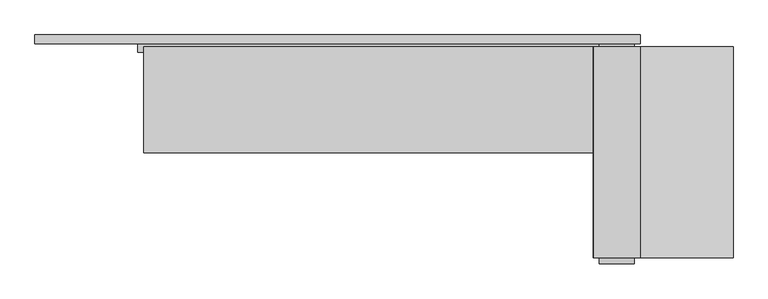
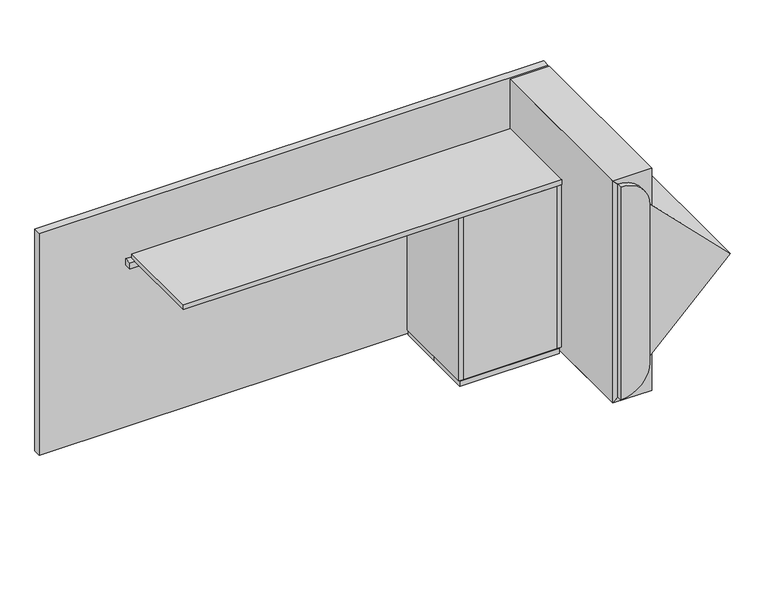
"""IFC4 building model written with IfcOpenShell, lengths in millimetres: proxy geometry, BASYS^OFFICE 1_WIRE WALL RT-RADIUS END LEG LEFT."""

from ifc_helpers import new_model, si_unit, point, frame, frame_2d, origin, origin_with_axes, place, context, project, spatial, polyline, circle_curve, trimmed, segment, composite_curve, outline, extrude, source, transform, mapped, element, save


def generic_models_84749f6c(model_context):
    return source(origin(), model_context, "Body", "SweptSolid", [
        extrude(outline(polyline([(1726.203125, 480.536875), (1524.203125, 480.536875), (1524.203125, 490.536875), (1726.203125, 490.536875), (1726.203125, 480.536875)])), frame((0.0, 0.0, -30.0), z_axis=(0.0, 0.0, 1.0), x_axis=(1.0, 0.0, 0.0)), (0.0, 0.0, 1.0), 30.0),
        extrude(outline(composite_curve([segment(polyline([(133.35, 1962.15), (781.05, 1962.15)]), True, "CONTINUOUS"), segment(trimmed(circle_curve(frame_2d((781.05, 1847.85)), 114.3), [point((781.05, 1962.15))], [point((895.35, 1847.85))], False, "CARTESIAN"), True, "CONTINUOUS"), segment(polyline([(895.35, 1847.85), (19.05, 1847.85)]), True, "CONTINUOUS"), segment(trimmed(circle_curve(frame_2d((133.35, 1847.85)), 114.3), [point((19.05, 1847.85))], [point((133.35, 1962.15))], False, "CARTESIAN"), True, "CONTINUOUS")], self_intersect=False)), frame((0.0, 0.0, 0.0), z_axis=(0.0, 1.0, 0.0), x_axis=(0.0, 0.0, 1.0)), (0.0, 0.0, 1.0), 38.1),
        extrude(outline(polyline([(1447.8, 711.2), (1447.8, 720.725), (1847.85, 720.725), (1847.85, 711.2), (1447.8, 711.2)])), frame((0.0, 0.0, 19.05), z_axis=(0.0, 0.0, 1.0), x_axis=(1.0, 0.0, 0.0)), (0.0, 0.0, 1.0), 647.7),
        extrude(outline(composite_curve([segment(trimmed(circle_curve(frame_2d((133.35, 1847.85)), 114.3), [point((19.05, 1847.85))], [point((133.35, 1962.15))], False, "CARTESIAN"), True, "CONTINUOUS"), segment(polyline([(133.35, 1962.15), (781.05, 1962.15)]), True, "CONTINUOUS"), segment(trimmed(circle_curve(frame_2d((781.05, 1847.85)), 114.3), [point((781.05, 1962.15))], [point((895.35, 1847.85))], False, "CARTESIAN"), True, "CONTINUOUS"), segment(polyline([(895.35, 1847.85), (19.05, 1847.85)]), True, "CONTINUOUS")], self_intersect=False)), frame((0.0, 692.15, 0.0), z_axis=(0.0, 1.0, 0.0), x_axis=(0.0, 0.0, 1.0)), (0.0, 0.0, 1.0), 28.575),
        extrude(outline(polyline([(1828.8, 711.2), (1828.8, 363.855), (355.6, 363.855), (355.6, 711.2), (1828.8, 711.2)])), frame((0.0, 0.0, 692.15), z_axis=(0.0, 0.0, 1.0), x_axis=(1.0, 0.0, 0.0)), (0.0, 0.0, 1.0), 19.05),
        extrude(outline(polyline([(1809.75, 382.905), (1809.75, 363.855), (1447.8, 363.855), (1447.8, 382.905), (1809.75, 382.905)])), frame((0.0, 0.0, 22.225), z_axis=(0.0, 0.0, 1.0), x_axis=(1.0, 0.0, 0.0)), (0.0, 0.0, 1.0), 669.925),
        extrude(outline(polyline([(1447.8, 711.2), (1447.8, 363.855), (1428.75, 363.855), (1428.75, 711.2), (1447.8, 711.2)])), frame((0.0, 0.0, 22.225), z_axis=(0.0, 0.0, 1.0), x_axis=(1.0, 0.0, 0.0)), (0.0, 0.0, 1.0), 669.925),
        extrude(outline(polyline([(1981.2, 749.3), (1981.2, 720.725), (0.0, 720.725), (0.0, 749.3), (1981.2, 749.3)])), origin_with_axes(), (0.0, 0.0, 1.0), 914.4),
        extrude(outline(polyline([(1847.85, 720.725), (1847.85, 692.15), (336.55, 692.15), (336.55, 720.725), (1847.85, 720.725)])), frame((0.0, 0.0, 666.75), z_axis=(0.0, 0.0, 1.0), x_axis=(1.0, 0.0, 0.0)), (0.0, 0.0, 1.0), 25.4),
        extrude(outline(polyline([(457.2, 2286.0), (914.4, 1828.8), (0.0, 1828.8), (457.2, 2286.0)])), frame((0.0, 19.05, 0.0), z_axis=(0.0, 1.0, 0.0), x_axis=(0.0, 0.0, 1.0)), (0.0, 0.0, 1.0), 692.15),
        extrude(outline(polyline([(1828.8, 711.2), (1828.8, 363.855), (1809.75, 363.855), (1809.75, 711.2), (1828.8, 711.2)])), frame((0.0, 0.0, 22.225), z_axis=(0.0, 0.0, 1.0), x_axis=(1.0, 0.0, 0.0)), (0.0, 0.0, 1.0), 669.925),
        extrude(outline(polyline([(1431.13125, 538.718125), (1431.13125, 711.2), (1819.275, 711.2), (1819.275, 538.718125), (1431.13125, 538.718125)])), origin_with_axes(), (0.0, 0.0, 1.0), 19.05),
        extrude(outline(composite_curve([segment(polyline([(914.4, 1981.2), (914.4, 1828.8), (895.35, 1847.85)]), True, "CONTINUOUS"), segment(trimmed(circle_curve(frame_2d((781.05, 1847.85)), 114.3), [point((895.35, 1847.85))], [point((781.05, 1962.15))], True, "CARTESIAN"), True, "CONTINUOUS"), segment(polyline([(781.05, 1962.15), (133.35, 1962.15)]), True, "CONTINUOUS"), segment(trimmed(circle_curve(frame_2d((133.35, 1847.85)), 114.3), [point((133.35, 1962.15))], [point((19.05, 1847.85))], True, "CARTESIAN"), True, "CONTINUOUS"), segment(polyline([(19.05, 1847.85), (0.0, 1828.8), (0.0, 1981.2), (914.4, 1981.2)]), True, "CONTINUOUS")], self_intersect=False)), frame((0.0, 19.05, 0.0), z_axis=(0.0, 1.0, 0.0), x_axis=(0.0, 0.0, 1.0)), (0.0, 0.0, 1.0), 692.15),
        extrude(outline(polyline([(1819.275, 363.855), (1431.13125, 363.855), (1431.13125, 536.336875), (1819.275, 536.336875), (1819.275, 363.855)])), origin_with_axes(), (0.0, 0.0, 1.0), 19.05),
        extrude(outline(polyline([(1726.203125, 655.4), (1524.203125, 655.4), (1524.203125, 665.4), (1726.203125, 665.4), (1726.203125, 655.4)])), frame((0.0, 0.0, -30.0), z_axis=(0.0, 0.0, 1.0), x_axis=(1.0, 0.0, 0.0)), (0.0, 0.0, 1.0), 30.0),
    ])


if __name__ == "__main__":
    model = new_model("IFC4")
    model_context = context("Model", 3, world=origin())
    ifc_project = project(units=[si_unit("LENGTHUNIT", "METRE", prefix="MILLI")], contexts=[model_context])
    site = spatial("IfcSite", under=ifc_project)
    building = spatial("IfcBuilding", under=site)
    placement = place(None, origin())
    generic_models_shape = generic_models_84749f6c(model_context)
    element("IfcBuildingElementProxy", 1, Name="BASYS^OFFICE 1_WIRE WALL RT-RADIUS END LEG LEFT", ObjectType="BASYS^OFFICE 1_WIRE WALL RT-RADIUS END LEG LEFT", at=placement, inside=building, context=model_context, shape_type="MappedRepresentation", body=[
        mapped(generic_models_shape, transform((0.0, 0.0, 0.0), x_axis=(1.0, 0.0, 0.0), y_axis=(0.0, 1.0, 0.0), z_axis=(0.0, 0.0, 1.0))),
    ])
    save(model, "model.ifc")
